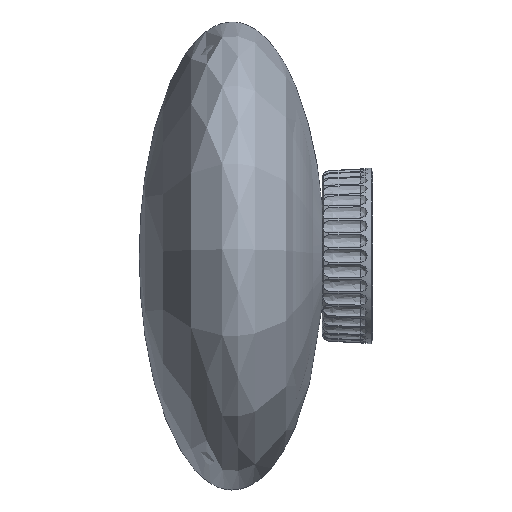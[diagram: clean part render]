
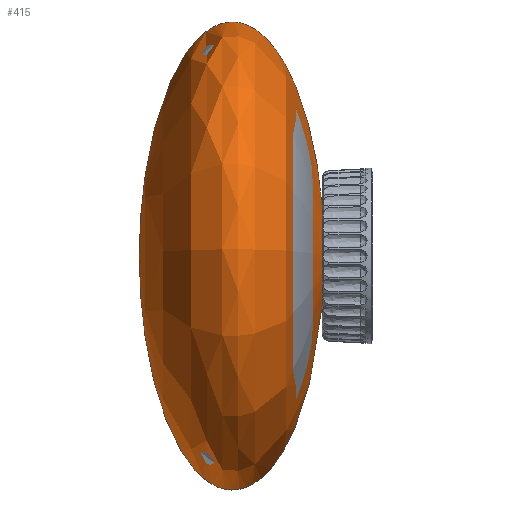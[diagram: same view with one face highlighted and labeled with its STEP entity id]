
A CAD part, left-side view. The second image highlights one B-rep face of the part: STEP entity #415.
In plain terms, the highlighted free-form (B-spline) face has degree [2, 2] with [5, 5] control points.
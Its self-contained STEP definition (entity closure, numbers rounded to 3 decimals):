
#166=(
BOUNDED_SURFACE()
B_SPLINE_SURFACE(2,2,((#11516,#11517,#11518,#11519,#11520),(#11521,#11522,
#11523,#11524,#11525),(#11526,#11527,#11528,#11529,#11530),(#11531,#11532,
#11533,#11534,#11535),(#11536,#11537,#11538,#11539,#11540)),
 .UNSPECIFIED.,.F.,.F.,.F.)
B_SPLINE_SURFACE_WITH_KNOTS((3,2,3),(3,2,3),(0.,327.031,654.062),
(872.21,1308.315,1744.42),.UNSPECIFIED.)
GEOMETRIC_REPRESENTATION_ITEM()
RATIONAL_B_SPLINE_SURFACE(((1.,0.707,1.,0.707,1.),
(0.744,0.526,0.744,0.526,
0.744),(1.,0.707,1.,0.707,1.),(0.744,
0.526,0.744,0.526,0.744),
(1.,0.707,1.,0.707,1.)))
REPRESENTATION_ITEM('')
SURFACE()
);
#415=ADVANCED_FACE('',(#630),#166,.T.);
#630=FACE_OUTER_BOUND('',#860,.T.);
#860=EDGE_LOOP('',(#2001,#2002,#2003));
#2001=ORIENTED_EDGE('',*,*,#2616,.T.);
#2002=ORIENTED_EDGE('',*,*,#2605,.F.);
#2003=ORIENTED_EDGE('',*,*,#2617,.F.);
#2605=EDGE_CURVE('',#3584,#3587,#3198,.T.);
#2616=EDGE_CURVE('',#3595,#3587,#3203,.T.);
#2617=EDGE_CURVE('',#3595,#3584,#2924,.T.);
#2924=B_SPLINE_CURVE_WITH_KNOTS('',3,(#12417,#12418,#12419,#12420,#12421,
#12422,#12423,#12424,#12425,#12426,#12427,#12428,#12429,#12430),
 .UNSPECIFIED.,.F.,.F.,(4,1,1,1,1,1,1,1,1,1,1,4),(138.212,144.794,
157.957,171.12,184.283,197.446,204.028,
210.609,223.772,236.936,256.68,276.425),
 .UNSPECIFIED.);
#3198=(
BOUNDED_CURVE()
B_SPLINE_CURVE(2,(#12298,#12299,#12300,#12301,#12302,#12303,#12304),
 .UNSPECIFIED.,.F.,.F.)
B_SPLINE_CURVE_WITH_KNOTS((3,2,2,3),(1.145,289.067,
653.768,654.062),.UNSPECIFIED.)
CURVE()
GEOMETRIC_REPRESENTATION_ITEM()
RATIONAL_B_SPLINE_CURVE((1.,0.78,1.,0.707,1.,1.,
1.))
REPRESENTATION_ITEM('')
);
#3203=(
BOUNDED_CURVE()
B_SPLINE_CURVE(2,(#12412,#12413,#12414,#12415,#12416),.UNSPECIFIED.,.F.,
 .F.)
B_SPLINE_CURVE_WITH_KNOTS((3,2,3),(1.144,327.031,654.062),
 .UNSPECIFIED.)
CURVE()
GEOMETRIC_REPRESENTATION_ITEM()
RATIONAL_B_SPLINE_CURVE((1.,0.745,1.,0.744,1.))
REPRESENTATION_ITEM('')
);
#3584=VERTEX_POINT('',#12251);
#3587=VERTEX_POINT('',#12254);
#3595=VERTEX_POINT('',#12262);
#11516=CARTESIAN_POINT('',(0.,-35.065,-242.5));
#11517=CARTESIAN_POINT('',(-42.5,-35.065,-242.5));
#11518=CARTESIAN_POINT('',(-42.5,-35.065,-200.));
#11519=CARTESIAN_POINT('',(-42.5,-35.065,-157.5));
#11520=CARTESIAN_POINT('',(0.,-35.065,-157.5));
#11521=CARTESIAN_POINT('',(0.,-49.722,-418.052));
#11522=CARTESIAN_POINT('',(-218.052,-49.722,-418.052));
#11523=CARTESIAN_POINT('',(-218.052,-49.722,-200.));
#11524=CARTESIAN_POINT('',(-218.052,-49.722,18.052));
#11525=CARTESIAN_POINT('',(0.,-49.722,18.052));
#11526=CARTESIAN_POINT('',(0.,-120.327,-398.854));
#11527=CARTESIAN_POINT('',(-198.854,-120.327,-398.854));
#11528=CARTESIAN_POINT('',(-198.854,-120.327,-200.));
#11529=CARTESIAN_POINT('',(-198.854,-120.327,-1.146));
#11530=CARTESIAN_POINT('',(0.,-120.327,-1.146));
#11531=CARTESIAN_POINT('',(0.,-190.931,-379.656));
#11532=CARTESIAN_POINT('',(-179.656,-190.931,-379.656));
#11533=CARTESIAN_POINT('',(-179.656,-190.931,-200.));
#11534=CARTESIAN_POINT('',(-179.656,-190.931,-20.344));
#11535=CARTESIAN_POINT('',(0.,-190.931,-20.344));
#11536=CARTESIAN_POINT('',(0.,-191.363,-200.));
#11537=CARTESIAN_POINT('',(0.,-191.363,-200.));
#11538=CARTESIAN_POINT('',(0.,-191.363,-200.));
#11539=CARTESIAN_POINT('',(0.,-191.363,-200.));
#11540=CARTESIAN_POINT('',(0.,-191.363,-200.));
#12251=CARTESIAN_POINT('',(0.,-35.142,-156.585));
#12254=CARTESIAN_POINT('',(0.,-191.363,-200.));
#12262=CARTESIAN_POINT('',(0.,-35.142,-243.414));
#12298=CARTESIAN_POINT('',(0.,-35.142,-156.585));
#12299=CARTESIAN_POINT('',(0.,-48.504,-0.181));
#12300=CARTESIAN_POINT('',(0.,-111.793,-0.001));
#12301=CARTESIAN_POINT('',(0.,-190.793,0.224));
#12302=CARTESIAN_POINT('',(0.,-191.362,-199.775));
#12303=CARTESIAN_POINT('',(0.,-191.363,-199.887));
#12304=CARTESIAN_POINT('',(0.,-191.363,-200.));
#12412=CARTESIAN_POINT('',(0.,-35.142,-243.414));
#12413=CARTESIAN_POINT('',(0.,-50.054,-417.962));
#12414=CARTESIAN_POINT('',(0.,-120.327,-398.854));
#12415=CARTESIAN_POINT('',(0.,-190.931,-379.656));
#12416=CARTESIAN_POINT('',(0.,-191.363,-200.));
#12417=CARTESIAN_POINT('',(0.,-35.142,-243.414));
#12418=CARTESIAN_POINT('',(-2.165,-35.142,-243.414));
#12419=CARTESIAN_POINT('',(-8.66,-35.142,-242.93));
#12420=CARTESIAN_POINT('',(-19.121,-35.142,-239.705));
#12421=CARTESIAN_POINT('',(-29.974,-35.142,-232.304));
#12422=CARTESIAN_POINT('',(-38.164,-35.142,-222.033));
#12423=CARTESIAN_POINT('',(-42.163,-35.142,-211.843));
#12424=CARTESIAN_POINT('',(-43.455,-35.142,-203.256));
#12425=CARTESIAN_POINT('',(-43.458,-35.142,-194.571));
#12426=CARTESIAN_POINT('',(-41.02,-35.142,-183.901));
#12427=CARTESIAN_POINT('',(-33.363,-35.142,-170.624));
#12428=CARTESIAN_POINT('',(-19.482,-35.142,-159.545));
#12429=CARTESIAN_POINT('',(-6.495,-35.142,-156.585));
#12430=CARTESIAN_POINT('',(0.,-35.142,-156.585));
